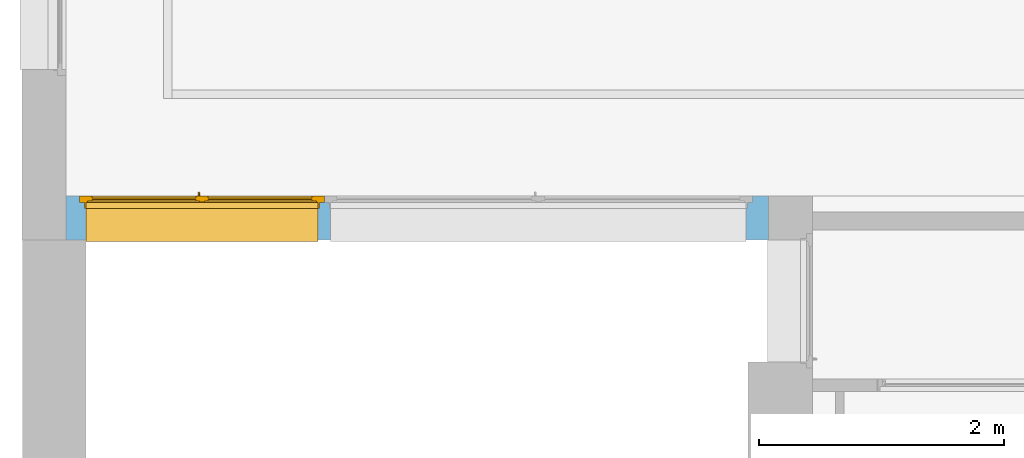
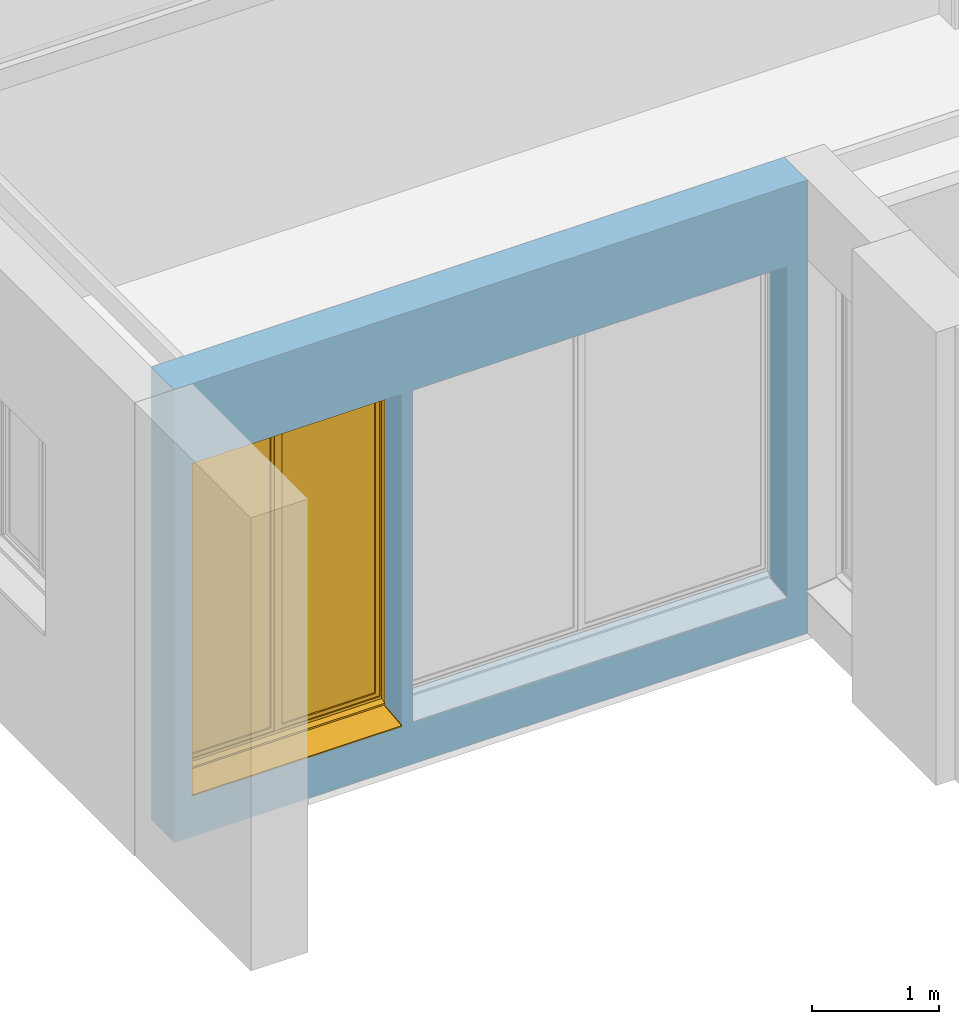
# One storey, part 20 of 32: 1 window, 2 openings, plus 1 element that does not belong to this part.
"""IFC2X3 building model written with IfcOpenShell, lengths in metres."""

from ifc_helpers import new_model, entity, si_unit, converted_unit, derived_unit, direction, frame, frame_2d, origin, place, context, subcontext, project, spatial, polyline, circle_curve, parameter, trimmed, segment, composite_curve, rectangle, outline, extrude, faceted_brep, source, transform, mapped, material, material_list, layer, layer_set, layer_usage, type_object, type_shapes, element, fill, save


model = new_model("IFC2X3")

# Units and contexts
model_context = context("Model", 3, precision=1e-05, world=origin(), true_north=direction((6.12303176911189e-17, 1.0)))
plan_context = context("Plan", 3, precision=1e-05, world=origin(), true_north=direction((6.12303176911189e-17, 1.0)))
body_context = subcontext(model_context, "Body", "Model", "MODEL_VIEW")
ifc_project = project(units=[si_unit("LENGTHUNIT", "METRE"), si_unit("AREAUNIT", "SQUARE_METRE"), si_unit("VOLUMEUNIT", "CUBIC_METRE"), converted_unit("PLANEANGLEUNIT", "DEGREE", entity("IfcRatioMeasure", 0.0174532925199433), si_unit("PLANEANGLEUNIT", "RADIAN"), dimensions=[0, 0, 0, 0, 0, 0, 0]), si_unit("MASSUNIT", "GRAM", prefix="KILO"), derived_unit("MASSDENSITYUNIT", [(si_unit("MASSUNIT", "GRAM", prefix="KILO"), 1), (si_unit("LENGTHUNIT", "METRE"), -3)]), derived_unit("MOMENTOFINERTIAUNIT", [(si_unit("LENGTHUNIT", "METRE"), 4)]), si_unit("TIMEUNIT", "SECOND"), si_unit("FREQUENCYUNIT", "HERTZ"), si_unit("THERMODYNAMICTEMPERATUREUNIT", "DEGREE_CELSIUS"), derived_unit("THERMALTRANSMITTANCEUNIT", [(si_unit("MASSUNIT", "GRAM", prefix="KILO"), 1), (si_unit("THERMODYNAMICTEMPERATUREUNIT", "KELVIN"), -1), (si_unit("TIMEUNIT", "SECOND"), -3)]), derived_unit("VOLUMETRICFLOWRATEUNIT", [(si_unit("LENGTHUNIT", "METRE"), 3), (si_unit("TIMEUNIT", "SECOND"), -1)]), si_unit("ELECTRICCURRENTUNIT", "AMPERE"), si_unit("ELECTRICVOLTAGEUNIT", "VOLT"), si_unit("POWERUNIT", "WATT"), si_unit("FORCEUNIT", "NEWTON", prefix="KILO"), si_unit("ILLUMINANCEUNIT", "LUX"), si_unit("LUMINOUSFLUXUNIT", "LUMEN"), si_unit("LUMINOUSINTENSITYUNIT", "CANDELA"), derived_unit("USERDEFINED", [(si_unit("MASSUNIT", "GRAM", prefix="KILO"), -1), (si_unit("LENGTHUNIT", "METRE"), -2), (si_unit("TIMEUNIT", "SECOND"), 3), (si_unit("LUMINOUSFLUXUNIT", "LUMEN"), 1)]), derived_unit("LINEARVELOCITYUNIT", [(si_unit("LENGTHUNIT", "METRE"), 1), (si_unit("TIMEUNIT", "SECOND"), -1)]), si_unit("PRESSUREUNIT", "PASCAL"), derived_unit("USERDEFINED", [(si_unit("LENGTHUNIT", "METRE"), -2), (si_unit("MASSUNIT", "GRAM", prefix="KILO"), 1), (si_unit("TIMEUNIT", "SECOND"), -2)]), derived_unit("LINEARFORCEUNIT", [(si_unit("MASSUNIT", "GRAM", prefix="KILO"), 1), (si_unit("LENGTHUNIT", "METRE"), 1), (si_unit("TIMEUNIT", "SECOND"), -2), (si_unit("LENGTHUNIT", "METRE"), -1)]), derived_unit("PLANARFORCEUNIT", [(si_unit("MASSUNIT", "GRAM", prefix="KILO"), 1), (si_unit("LENGTHUNIT", "METRE"), 1), (si_unit("TIMEUNIT", "SECOND"), -2), (si_unit("LENGTHUNIT", "METRE"), -2)])], contexts=[model_context, plan_context])

# Site, building, storey
site_placement = place(None, origin())
site = spatial("IfcSite", under=ifc_project, at=site_placement, Name="Default", CompositionType="ELEMENT")
building_placement = place(site_placement, origin())
building = spatial("IfcBuilding", under=site, at=building_placement, CompositionType="ELEMENT")
storey_placement = place(building_placement, origin())
storey = spatial("IfcBuildingStorey", under=building, at=storey_placement, Name="0 Mairie RDC 0.00", CompositionType="ELEMENT", Elevation=-1.94916083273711e-14)

# Wall, openings, window
ifc_material_1 = material(Name="Maçonnerie - Enduit")
ifc_layer_1 = layer(ifc_material_1, 0.02)
ifc_material_2 = material(Name="Béton, coulé sur place")
ifc_layer_2 = layer(ifc_material_2, 0.2)
ifc_material_3 = material(Name="Vide")
ifc_layer_3 = layer(ifc_material_3, 0.01)
ifc_material_4 = material(Name="Maçonnerie - Isolant")
ifc_layer_4 = layer(ifc_material_4, 0.12)
ifc_material_5 = material(Name="Plâtre")
ifc_layer_5 = layer(ifc_material_5, 0.01)
ifc_layer_set = layer_set([ifc_layer_1, ifc_layer_2, ifc_layer_3, ifc_layer_4, ifc_layer_5], Name="Mur de base:A Enduit 2 + Béton 20 + vide 1 +  Doublage 13")
ifc_layer_usage = layer_usage(ifc_layer_set, "AXIS2", "POSITIVE", -0.18)
wall_type = type_object("IfcWallType", Name="Murs : Mur de base : A Enduit 2 + Béton 20 + vide 1 +  Doublage 13", PredefinedType="STANDARD", material=ifc_layer_set)
wall_placement = place(storey_placement, frame((-29.8870149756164, -8.13302112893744, -0.400000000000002)))
wall = element("IfcWallStandardCase", 1, at=wall_placement, inside=storey, type_object=wall_type, material=ifc_layer_usage, Name="Murs : Mur de base : A Enduit 2 + Béton 20 + vide 1 +  Doublage 13", ObjectType="Mur de base:A Enduit 2 + Béton 20 + vide 1 +  Doublage 13", context=body_context, shape_type="SweptSolid", body=[
    extrude(rectangle(XDim=5.74873466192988, YDim=0.36, at=frame_2d((2.87436733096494, -4.44089209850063e-16), x_axis=(-1.0, 0.0))), origin(), (0.0, 0.0, 1.0), 4.35000000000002),
])
opening_1_placement = place(wall_placement, frame((0.113531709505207, -0.500000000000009, 0.400000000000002)))
opening_1 = element("IfcOpeningElement", 2, at=opening_1_placement, cuts=wall, Name="Murs : Mur de base : A Enduit 2 + Béton 20 + vide 1 +  Doublage 13", ObjectType="Opening", context=body_context, shape_type="Brep", body=[
    faceted_brep([(1.95, 0.599999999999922, 0.035), (1.95, 0.579999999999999, 0.035), (1.95, 0.579999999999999, 3.185), (1.95, 0.0, 3.185), (1.95, 0.0, 0.0), (1.95, 0.266997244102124, 0.0), (0.0500000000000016, 1.0, 0.0350000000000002), (0.0500000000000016, 0.680000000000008, 0.0350000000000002), (0.0500000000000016, 0.680000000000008, 3.185), (0.0500000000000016, 1.0, 3.185), (1.95, 1.0, 0.0350000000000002), (1.95, 0.680000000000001, 0.0350000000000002), (2.0, 0.680000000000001, 0.0350000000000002), (2.0, 0.630000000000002, 0.0350000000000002), (1.96, 0.630000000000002, 0.0350000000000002), (1.96, 0.579999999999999, 0.0350000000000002), (0.0499999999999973, 0.599999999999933, 0.035), (0.0500000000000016, 0.580000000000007, 0.0350000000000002), (0.0400000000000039, 0.580000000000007, 0.0350000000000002), (0.0400000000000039, 0.630000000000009, 0.0350000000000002), (0.0, 0.630000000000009, 0.0350000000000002), (0.0, 0.680000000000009, 0.0350000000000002), (1.95, 1.0, 3.185), (0.0499999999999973, 0.580000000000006, 3.185), (0.0500000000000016, 0.0, 3.185), (0.0500000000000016, 0.0, 0.0), (0.0500000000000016, 0.266997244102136, 0.0), (2.0, 0.680000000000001, 3.235), (2.0, 0.630000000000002, 3.235), (0.0, 0.630000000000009, 3.235), (0.0399999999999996, 0.630000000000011, 3.195), (1.96, 0.630000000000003, 3.195), (1.96, 0.579999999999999, 3.195), (0.0399999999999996, 0.580000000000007, 3.195), (1.95, 0.680000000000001, 3.185), (0.0, 0.680000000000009, 3.235)], [[[0, 1, 2, 3, 4, 5]], [[6, 7, 8, 9]], [[10, 11, 12, 13, 14, 15, 1, 0, 16, 17, 18, 19, 20, 21, 7, 6]], [[10, 6, 9, 22]], [[3, 2, 23, 24]], [[3, 24, 25, 4]], [[4, 25, 26, 5]], [[5, 26, 16, 0]], [[12, 27, 28, 13]], [[13, 28, 29, 20, 19, 30, 31, 14]], [[14, 31, 32, 15]], [[15, 32, 33, 18, 17, 23, 2, 1]], [[11, 34, 8, 7, 21, 35, 27, 12]], [[27, 35, 29, 28]], [[30, 33, 32, 31]], [[29, 35, 21, 20]], [[19, 18, 33, 30]], [[9, 8, 34, 22]], [[24, 23, 17, 16, 26, 25]], [[22, 34, 11, 10]]]),
])
opening_2_placement = place(wall_placement, frame((2.11440790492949, -0.500000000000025, 0.400000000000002)))
element("IfcOpeningElement", 3, at=opening_2_placement, cuts=wall, Name="Murs : Mur de base : A Enduit 2 + Béton 20 + vide 1 +  Doublage 13", ObjectType="Opening", context=body_context, shape_type="Brep", body=[
    faceted_brep([(3.45, 0.599999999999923, 0.035), (3.45, 0.580000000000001, 0.035), (3.45, 0.580000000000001, 3.185), (3.45, 0.0, 3.185), (3.45, 0.0, 0.0), (3.45, 0.266997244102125, 0.0), (0.0500000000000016, 1.0, 0.0350000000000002), (0.0500000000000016, 0.680000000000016, 0.0350000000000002), (0.0500000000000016, 0.680000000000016, 3.185), (0.0500000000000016, 1.0, 3.185), (3.45, 1.0, 0.0350000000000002), (3.45, 0.680000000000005, 0.0350000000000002), (3.5, 0.680000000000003, 0.0350000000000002), (3.5, 0.630000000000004, 0.0350000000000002), (3.46, 0.630000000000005, 0.0350000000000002), (3.46, 0.580000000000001, 0.0350000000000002), (0.0499999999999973, 0.599999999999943, 0.035), (0.0500000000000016, 0.580000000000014, 0.0350000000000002), (0.0399999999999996, 0.580000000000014, 0.0350000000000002), (0.0399999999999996, 0.630000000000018, 0.0350000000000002), (0.0, 0.630000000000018, 0.0350000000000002), (0.0, 0.680000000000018, 0.0350000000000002), (3.45, 1.0, 3.185), (0.0499999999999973, 0.580000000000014, 3.185), (0.0500000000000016, 0.0, 3.185), (0.0500000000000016, 0.0, 0.0), (0.0500000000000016, 0.266997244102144, 0.0), (3.5, 0.680000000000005, 3.235), (3.5, 0.630000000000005, 3.235), (0.0, 0.630000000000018, 3.235), (0.0400000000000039, 0.630000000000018, 3.195), (3.46, 0.630000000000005, 3.195), (3.46, 0.580000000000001, 3.195), (0.0400000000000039, 0.580000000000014, 3.195), (3.45, 0.680000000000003, 3.185), (0.0, 0.680000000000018, 3.235)], [[[0, 1, 2, 3, 4, 5]], [[6, 7, 8, 9]], [[10, 11, 12, 13, 14, 15, 1, 0, 16, 17, 18, 19, 20, 21, 7, 6]], [[10, 6, 9, 22]], [[3, 2, 23, 24]], [[3, 24, 25, 4]], [[4, 25, 26, 5]], [[5, 26, 16, 0]], [[12, 27, 28, 13]], [[13, 28, 29, 20, 19, 30, 31, 14]], [[14, 31, 32, 15]], [[15, 32, 33, 18, 17, 23, 2, 1]], [[11, 34, 8, 7, 21, 35, 27, 12]], [[27, 35, 29, 28]], [[30, 33, 32, 31]], [[29, 35, 21, 20]], [[19, 18, 33, 30]], [[9, 8, 34, 22]], [[24, 23, 17, 16, 26, 25]], [[22, 34, 11, 10]]]),
])
ifc_material_6 = material(Name="PVC Blanc")
ifc_material_7 = material(Name="Fenêtre - Vitrage")
ifc_material_list = material_list([ifc_material_6, ifc_material_7])
window_style = type_object("IfcWindowStyle", Name="Fenêtres : PF 2 Vantaux - Droits : 1.90 x 3.15", ConstructionType="NOTDEFINED", OperationType="DOUBLE_PANEL_VERTICAL", ParameterTakesPrecedence=False, Sizeable=False, material=ifc_material_list)
shared_shape = source(origin(), body_context, "Body", "SolidModel", [
    extrude(outline(polyline([(-0.0233345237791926, -0.0332340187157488), (-0.0162634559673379, -0.0332340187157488), (0.0332340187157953, 0.0162634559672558), (0.0332340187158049, 0.0233345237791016), (0.0233345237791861, 0.0332340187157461), (0.0162634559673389, 0.0332340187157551), (-0.0332340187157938, -0.0162634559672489), (-0.0332340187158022, -0.0233345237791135), (-0.0233345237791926, -0.0332340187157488)])), frame((1.025, 0.314000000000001, 1.1), z_axis=(0.0, 1.0, 0.0), x_axis=(0.707106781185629, 0.0, -0.707106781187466)), (0.0, 0.0, 1.0), 0.00599999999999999),
    extrude(outline(polyline([(-0.145647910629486, 0.00157280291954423), (-0.14680589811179, -0.00944471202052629), (-0.141778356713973, -0.0094447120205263), (-0.141169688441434, -0.003653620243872), (0.145429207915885, -0.00365362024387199), (0.146997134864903, 0.0112642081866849), (0.142024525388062, 0.0117868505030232), (0.140950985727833, 0.00157280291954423), (-0.145647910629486, 0.00157280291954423)])), frame((0.0499999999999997, 0.545014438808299, 0.0234321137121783), z_axis=(-1.0, 0.0, 0.0), x_axis=(0.0, -0.994521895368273, 0.104528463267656)), (0.0, 0.0, -1.0), 1.9),
    extrude(outline(composite_curve([segment(polyline([(-0.0143545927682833, -0.11472792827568), (-0.0129286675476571, -0.11472792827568)]), True, "CONTINUOUS"), segment(trimmed(circle_curve(frame_2d((-0.0129286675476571, -0.11072792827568), x_axis=(0.0, 1.0)), 0.004), [parameter(180.0)], [parameter(263.999999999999)], True, "PARAMETER"), True, "CONTINUOUS"), segment(polyline([(-0.00895057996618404, -0.111146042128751), (0.020630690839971, 0.170300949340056)]), True, "CONTINUOUS"), segment(polyline([(0.020630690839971, 0.170300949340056), (0.0156031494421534, 0.170300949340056)]), True, "CONTINUOUS"), segment(polyline([(0.0156031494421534, 0.170300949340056), (-0.0143545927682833, -0.11472792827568)]), True, "CONTINUOUS")], self_intersect=False)), frame((0.0499999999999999, 0.575300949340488, 0.0241265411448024), z_axis=(1.0, 0.0, 0.0), x_axis=(0.0, 0.0, 1.0)), (0.0, 0.0, 1.0), 0.00499999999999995),
    extrude(outline(composite_curve([segment(polyline([(-0.0143545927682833, -0.11472792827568), (-0.0129286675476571, -0.11472792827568)]), True, "CONTINUOUS"), segment(trimmed(circle_curve(frame_2d((-0.0129286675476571, -0.11072792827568), x_axis=(0.0, 1.0)), 0.004), [parameter(180.0)], [parameter(264.0)], True, "PARAMETER"), True, "CONTINUOUS"), segment(polyline([(-0.00895057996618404, -0.111146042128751), (0.020630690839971, 0.170300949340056)]), True, "CONTINUOUS"), segment(polyline([(0.020630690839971, 0.170300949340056), (0.0156031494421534, 0.170300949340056)]), True, "CONTINUOUS"), segment(polyline([(0.0156031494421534, 0.170300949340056), (-0.0143545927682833, -0.11472792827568)]), True, "CONTINUOUS")], self_intersect=False)), frame((1.945, 0.575300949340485, 0.0241265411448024), z_axis=(1.0, 0.0, 0.0), x_axis=(0.0, 0.0, 1.0)), (0.0, 0.0, 1.0), 0.00499999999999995),
    extrude(outline(polyline([(-0.475000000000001, -1.55), (0.475000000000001, -1.55), (0.475000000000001, 1.55), (-0.475000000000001, 1.55), (-0.475000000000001, -1.55)]), holes=[polyline([(0.425000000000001, -1.5), (-0.425000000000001, -1.5), (-0.425000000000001, 1.5), (0.425000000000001, 1.5), (0.425000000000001, -1.5)])]), frame((0.524999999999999, 0.320000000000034, 1.635), z_axis=(0.0, 1.0, 0.0), x_axis=(-1.0, 0.0, 0.0)), (0.0, 0.0, 1.0), 0.0399999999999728),
    extrude(rectangle(XDim=0.012, YDim=0.85, at=frame_2d((-1.69135538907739e-17, 0.0), x_axis=(1.0, 0.0))), frame((1.475, 0.339999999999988, 0.135), z_axis=(0.0, 0.0, 1.0), x_axis=(0.0, -1.0, 0.0)), (0.0, 0.0, 1.0), 3.0),
    extrude(rectangle(XDim=0.012, YDim=0.850000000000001, at=frame_2d((-1.69135538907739e-17, 0.0), x_axis=(1.0, 0.0))), frame((0.524999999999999, 0.339999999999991, 0.135), z_axis=(0.0, 0.0, 1.0), x_axis=(0.0, -1.0, 0.0)), (0.0, 0.0, 1.0), 3.0),
    extrude(outline(polyline([(-0.474999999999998, -1.55), (0.475, -1.55), (0.474999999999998, 1.55), (-0.475, 1.55), (-0.474999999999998, -1.55)]), holes=[polyline([(0.425000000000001, -1.5), (-0.424999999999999, -1.5), (-0.425000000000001, 1.5), (0.424999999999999, 1.5), (0.425000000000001, -1.5)])]), frame((1.475, 0.319999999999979, 1.635), z_axis=(0.0, 1.0, 0.0), x_axis=(-1.0, 0.0, 0.0)), (0.0, 0.0, 1.0), 0.0399999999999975),
    extrude(outline(polyline([(-1.5775, -0.96), (1.5825, -0.96), (1.5825, 0.96), (-1.5775, 0.96), (-1.5775, 0.95), (1.5725, 0.95), (1.5725, -0.95), (-1.5775, -0.95), (-1.5775, -0.96)])), frame((1.0, 0.37, 1.6125), z_axis=(0.0, 1.0, 0.0), x_axis=(0.0, 0.0, 1.0)), (0.0, 0.0, 1.0), 0.0500000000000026),
    extrude(rectangle(XDim=0.0400000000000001, YDim=0.00799999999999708, at=frame_2d((0.0, 8.23993651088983e-18), x_axis=(1.0, 0.0))), frame((1.0, 0.363999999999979, 0.0999999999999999), z_axis=(0.0, 0.0, 1.0), x_axis=(-1.0, 0.0, 0.0)), (0.0, 0.0, 1.0), 3.07),
    faceted_brep([(1.03064600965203, 0.313999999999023, 1.12203392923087), (1.03203392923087, 0.313999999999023, 1.12064600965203), (1.03203392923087, 0.313999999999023, 1.10933230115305), (1.03066769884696, 0.313999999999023, 1.10796607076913), (1.01933230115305, 0.313999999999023, 1.10796607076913), (1.01796607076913, 0.313999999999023, 1.10933230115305), (1.01796607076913, 0.313999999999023, 1.12064600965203), (1.01935399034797, 0.313999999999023, 1.12203392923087), (1.03064600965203, 0.301086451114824, 1.12203392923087), (1.03203392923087, 0.301661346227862, 1.12064600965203), (1.03203392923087, 0.288353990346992, 1.10733865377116), (1.03203392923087, 0.288353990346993, 1.02), (1.03203392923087, 0.299667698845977, 1.02), (1.03203392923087, 0.299667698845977, 1.10265236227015), (1.03203392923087, 0.306347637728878, 1.10933230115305), (1.03066769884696, 0.306913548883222, 1.10796607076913), (1.01933230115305, 0.306913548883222, 1.10796607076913), (1.01796607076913, 0.306347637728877, 1.10933230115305), (1.01796607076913, 0.299667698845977, 1.10265236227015), (1.01796607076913, 0.299667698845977, 1.02), (1.01796607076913, 0.288353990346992, 1.02), (1.01796607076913, 0.288353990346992, 1.10733865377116), (1.01796607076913, 0.301661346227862, 1.12064600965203), (1.01935399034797, 0.301086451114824, 1.12203392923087), (1.03064600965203, 0.286966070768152, 1.1079135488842), (1.03066769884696, 0.301033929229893, 1.1020864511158), (1.01933230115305, 0.301033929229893, 1.1020864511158), (1.01935399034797, 0.286966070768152, 1.1079135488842), (1.03064600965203, 0.286966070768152, 1.02), (1.01935399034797, 0.286966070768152, 1.02), (1.01933230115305, 0.301033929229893, 1.02), (1.03066769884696, 0.301033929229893, 1.02)], [[[0, 1, 2, 3, 4, 5, 6, 7]], [[1, 0, 8, 9]], [[2, 1, 9, 10, 11, 12, 13, 14]], [[3, 2, 14, 15]], [[4, 3, 15, 16]], [[5, 4, 16, 17]], [[6, 5, 17, 18, 19, 20, 21, 22]], [[7, 6, 22, 23]], [[0, 7, 23, 8]], [[9, 8, 24, 10]], [[15, 14, 13, 25]], [[16, 15, 25, 26]], [[17, 16, 26, 18]], [[23, 22, 21, 27]], [[8, 23, 27, 24]], [[28, 29, 20, 19, 30, 31, 12, 11]], [[10, 24, 28, 11]], [[25, 13, 12, 31]], [[26, 25, 31, 30]], [[18, 26, 30, 19]], [[27, 21, 20, 29]], [[24, 27, 29, 28]]]),
    faceted_brep([(0.0, 0.320000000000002, 0.0350000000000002), (0.0, 0.370000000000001, 0.0350000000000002), (0.0499999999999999, 0.370000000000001, 0.0350000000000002), (0.0499999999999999, 0.399999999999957, 0.0350000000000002), (1.95, 0.399999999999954, 0.0350000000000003), (1.95, 0.370000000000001, 0.0350000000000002), (2.0, 0.370000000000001, 0.0350000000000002), (2.0, 0.320000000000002, 0.0350000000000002), (0.0, 0.320000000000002, 3.235), (0.0, 0.370000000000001, 3.235), (2.0, 0.370000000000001, 3.235), (1.95, 0.370000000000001, 0.0743761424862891), (0.0499999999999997, 0.370000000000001, 0.0743761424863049), (0.0649999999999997, 0.370000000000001, 3.17), (0.0649999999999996, 0.370000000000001, 0.0999999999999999), (1.935, 0.370000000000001, 0.1), (1.935, 0.370000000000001, 3.17), (0.0499999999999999, 0.419999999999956, 0.060978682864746), (0.0499999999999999, 0.419999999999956, 0.0450000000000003), (0.0499999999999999, 0.409999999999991, 0.0450000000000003), (0.0499999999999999, 0.409999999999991, 0.050000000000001), (0.0499999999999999, 0.399999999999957, 0.050000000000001), (1.95, 0.399999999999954, 0.050000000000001), (1.95, 0.409999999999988, 0.050000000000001), (1.95, 0.409999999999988, 0.0450000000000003), (1.95, 0.419999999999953, 0.0450000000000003), (1.95, 0.419999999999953, 0.060978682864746), (2.0, 0.320000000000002, 3.235), (1.95, 0.320000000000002, 3.185), (1.95, 0.32, 0.0850000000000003), (0.0499999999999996, 0.320000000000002, 0.0850000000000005), (0.0499999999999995, 0.320000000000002, 3.185), (0.0649999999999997, 0.360000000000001, 3.17), (0.0649999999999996, 0.360000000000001, 0.0999999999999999), (1.935, 0.360000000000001, 0.1), (1.935, 0.360000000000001, 3.17), (1.95, 0.360000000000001, 3.185), (0.0499999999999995, 0.360000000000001, 3.185), (0.0499999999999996, 0.360000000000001, 0.0850000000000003), (1.95, 0.360000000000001, 0.0850000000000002)], [[[0, 1, 2, 3, 4, 5, 6, 7]], [[1, 0, 8, 9]], [[1, 9, 10, 6, 5, 11, 12, 2], [13, 14, 15, 16]], [[12, 17, 18, 19, 20, 21, 3, 2]], [[3, 21, 22, 4]], [[4, 22, 23, 24, 25, 26, 11, 5]], [[6, 10, 27, 7]], [[0, 7, 27, 8], [28, 29, 30, 31]], [[13, 32, 33, 14]], [[33, 34, 15, 14]], [[35, 16, 15, 34]], [[17, 12, 11, 26]], [[32, 35, 34, 33], [36, 37, 38, 39]], [[38, 37, 31, 30]], [[30, 29, 39, 38]], [[28, 36, 39, 29]], [[18, 17, 26, 25]], [[19, 18, 25, 24]], [[20, 19, 24, 23]], [[21, 20, 23, 22]], [[13, 16, 35, 32]], [[10, 9, 8, 27]], [[37, 36, 28, 31]]], outer=[[True], [True], [True, False], [True], [True], [True], [True], [True, False], [True], [True], [True], [True], [False, True], [True], [True], [True], [True], [True], [True], [True], [True], [True], [True]]),
])
type_shapes(window_style, [shared_shape])
window_placement = place(opening_1_placement, frame((2.0, 1.0, 0.0), z_axis=(0.0, 0.0, 1.0), x_axis=(-1.0, 0.0, 0.0)))
window = element("IfcWindow", 4, at=window_placement, inside=storey, type_object=window_style, material=ifc_material_6, Name="Fenêtres : PF 2 Vantaux - Droits : 1.90 x 3.15", ObjectType="PF 2 Vantaux - Droits:1.90 x 3.15", OverallHeight=3.265, OverallWidth=2.0, context=body_context, shape_type="MappedRepresentation", body=[
    mapped(shared_shape, transform((0.0, 0.0, 0.0), scale=1.0)),
])
fill(opening_1, window)

save(model, "model.ifc")
